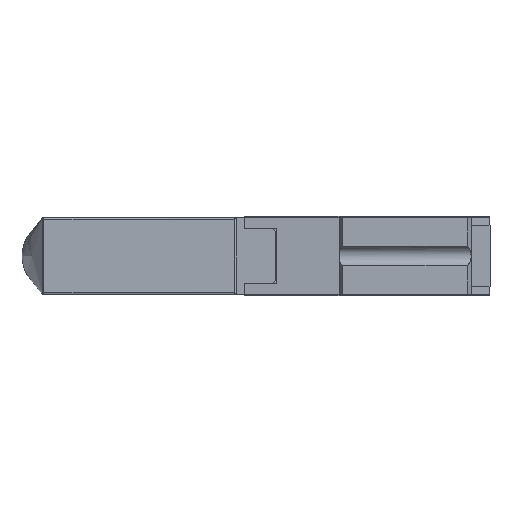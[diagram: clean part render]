
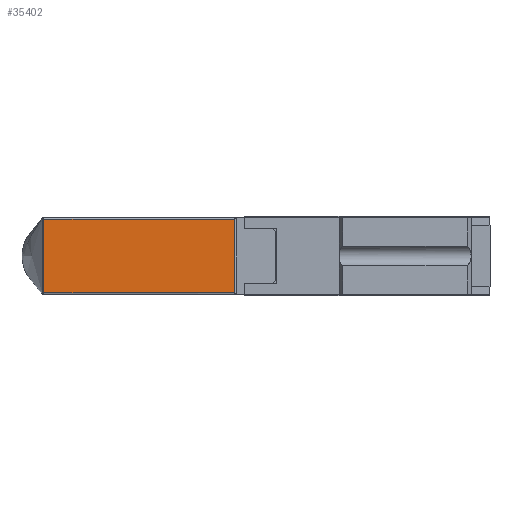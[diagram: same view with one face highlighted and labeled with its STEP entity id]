
A CAD part, left-side view. The second image highlights one B-rep face of the part: STEP entity #35402.
In plain terms, the highlighted planar face has unit normal (-1, 0, 0).
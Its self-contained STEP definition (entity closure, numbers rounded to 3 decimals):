
#747 = LINE ( 'NONE', #31331, #15126 ) ;
#2299 = AXIS2_PLACEMENT_3D ( 'NONE', #46408, #24375, #6152 ) ;
#2822 = VERTEX_POINT ( 'NONE', #31990 ) ;
#3105 = EDGE_LOOP ( 'NONE', ( #7089, #25040, #6924, #28295 ) ) ;
#3997 = VERTEX_POINT ( 'NONE', #44234 ) ;
#6065 = EDGE_CURVE ( 'NONE', #3997, #45686, #32254, .T. ) ;
#6152 = DIRECTION ( 'NONE',  ( 0., 0., 1. ) ) ;
#6229 = CARTESIAN_POINT ( 'NONE',  ( 5.299, 82.5, -24.9 ) ) ;
#6924 = ORIENTED_EDGE ( 'NONE', *, *, #41285, .T. ) ;
#7089 = ORIENTED_EDGE ( 'NONE', *, *, #20794, .T. ) ;
#7230 = CARTESIAN_POINT ( 'NONE',  ( 5.299, 145.036, -4.9 ) ) ;
#10481 = CARTESIAN_POINT ( 'NONE',  ( 5.299, 145.004, -24.9 ) ) ;
#11627 = VECTOR ( 'NONE', #13095, 1000. ) ;
#13095 = DIRECTION ( 'NONE',  ( 0., 0., 1. ) ) ;
#14204 = CARTESIAN_POINT ( 'NONE',  ( 5.299, 83., -0.9 ) ) ;
#15126 = VECTOR ( 'NONE', #45496, 1000. ) ;
#15577 = FACE_OUTER_BOUND ( 'NONE', #3105, .T. ) ;
#17583 = DIRECTION ( 'NONE',  ( 0., -1., 0. ) ) ;
#18145 = VECTOR ( 'NONE', #17583, 1000. ) ;
#18264 = CARTESIAN_POINT ( 'NONE',  ( 5.299, 145.004, -0.9 ) ) ;
#20434 = LINE ( 'NONE', #6229, #18145 ) ;
#20694 = PLANE ( 'NONE',  #2299 ) ;
#20794 = EDGE_CURVE ( 'NONE', #45686, #2822, #747, .T. ) ;
#24375 = DIRECTION ( 'NONE',  ( -1., 0., 0. ) ) ;
#25040 = ORIENTED_EDGE ( 'NONE', *, *, #27248, .F. ) ;
#26624 = CARTESIAN_POINT ( 'NONE',  ( 5.299, 145.004, -24.9 ) ) ;
#27248 = EDGE_CURVE ( 'NONE', #47044, #2822, #30923, .T. ) ;
#28295 = ORIENTED_EDGE ( 'NONE', *, *, #6065, .T. ) ;
#29154 = CARTESIAN_POINT ( 'NONE',  ( 5.299, 145.036, -20.9 ) ) ;
#30923 = B_SPLINE_CURVE_WITH_KNOTS ( 'NONE', 3,
 ( #10481, #29154, #47185, #40286, #7230, #18264 ),
 .UNSPECIFIED., .F., .F.,
 ( 4, 2, 4 ),
 ( 0., 0.5, 1. ),
 .UNSPECIFIED. ) ;
#31331 = CARTESIAN_POINT ( 'NONE',  ( 5.299, 82.5, -0.9 ) ) ;
#31990 = CARTESIAN_POINT ( 'NONE',  ( 5.299, 145.004, -0.9 ) ) ;
#32254 = LINE ( 'NONE', #45494, #11627 ) ;
#35402 = ADVANCED_FACE ( 'NONE', ( #15577 ), #20694, .T. ) ;
#40286 = CARTESIAN_POINT ( 'NONE',  ( 5.299, 145.049, -8.9 ) ) ;
#41285 = EDGE_CURVE ( 'NONE', #47044, #3997, #20434, .T. ) ;
#44234 = CARTESIAN_POINT ( 'NONE',  ( 5.299, 83., -24.9 ) ) ;
#45494 = CARTESIAN_POINT ( 'NONE',  ( 5.299, 83., -25.4 ) ) ;
#45496 = DIRECTION ( 'NONE',  ( 0., 1., 0. ) ) ;
#45686 = VERTEX_POINT ( 'NONE', #14204 ) ;
#46408 = CARTESIAN_POINT ( 'NONE',  ( 5.299, 82.5, -25.4 ) ) ;
#47044 = VERTEX_POINT ( 'NONE', #26624 ) ;
#47185 = CARTESIAN_POINT ( 'NONE',  ( 5.299, 145.049, -16.9 ) ) ;
